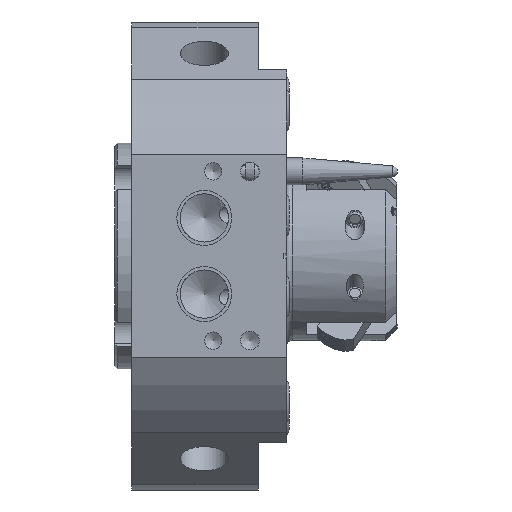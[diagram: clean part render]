
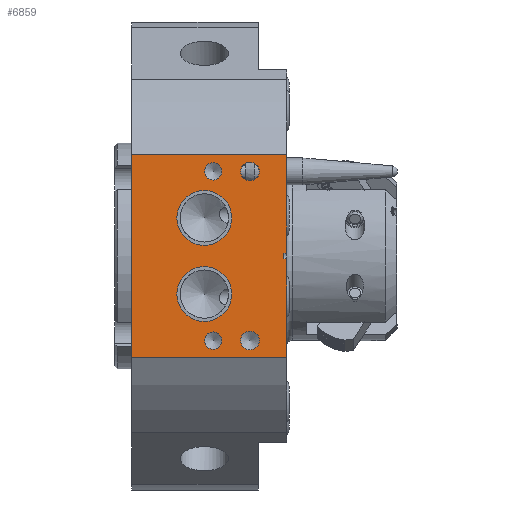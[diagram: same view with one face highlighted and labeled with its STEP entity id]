
A CAD part, left-side view. The second image highlights one B-rep face of the part: STEP entity #6859.
In plain terms, the highlighted planar face has unit normal (-1, 0, 0).
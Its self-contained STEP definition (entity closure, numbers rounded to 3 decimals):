
#1081 = ORIENTED_EDGE ( 'NONE', *, *, #8434, .F. ) ;
#1279 = AXIS2_PLACEMENT_3D ( 'NONE', #12017, #25187, #38333 ) ;
#1310 = DIRECTION ( 'NONE',  ( 0., 0., 1. ) ) ;
#2277 = EDGE_LOOP ( 'NONE', ( #2519 ) ) ;
#2341 = EDGE_CURVE ( 'NONE', #40706, #36477, #35648, .T. ) ;
#2519 = ORIENTED_EDGE ( 'NONE', *, *, #41122, .F. ) ;
#2832 = LINE ( 'NONE', #15983, #40849 ) ;
#2970 = CARTESIAN_POINT ( 'NONE',  ( -38.5, 13., 15. ) ) ;
#3306 = CARTESIAN_POINT ( 'NONE',  ( -38.5, 6.5, 15. ) ) ;
#3478 = EDGE_CURVE ( 'NONE', #14315, #14315, #40271, .T. ) ;
#3518 = DIRECTION ( 'NONE',  ( 0., -1., 0. ) ) ;
#4180 = ORIENTED_EDGE ( 'NONE', *, *, #35152, .F. ) ;
#4837 = VERTEX_POINT ( 'NONE', #17983 ) ;
#5275 = EDGE_CURVE ( 'NONE', #24651, #24651, #35233, .T. ) ;
#5399 = AXIS2_PLACEMENT_3D ( 'NONE', #35073, #5528, #18678 ) ;
#5528 = DIRECTION ( 'NONE',  ( 1., 0., 0. ) ) ;
#5551 = EDGE_CURVE ( 'NONE', #6599, #36477, #25096, .T. ) ;
#5715 = ORIENTED_EDGE ( 'NONE', *, *, #19561, .T. ) ;
#5760 = CIRCLE ( 'NONE', #29856, 4.864 ) ;
#6095 = CARTESIAN_POINT ( 'NONE',  ( -38.5, 27.5, 18. ) ) ;
#6563 = DIRECTION ( 'NONE',  ( 0., 0., 1. ) ) ;
#6599 = VERTEX_POINT ( 'NONE', #11887 ) ;
#6859 = ADVANCED_FACE ( 'NONE', ( #15244, #28403, #41551, #12002, #25173, #38315, #8764 ), #21901, .F. ) ;
#6948 = VERTEX_POINT ( 'NONE', #20098 ) ;
#6967 = AXIS2_PLACEMENT_3D ( 'NONE', #41857, #12307, #25483 ) ;
#7397 = EDGE_CURVE ( 'NONE', #23138, #31960, #19881, .T. ) ;
#7984 = DIRECTION ( 'NONE',  ( 0., 0., 1. ) ) ;
#8077 = CARTESIAN_POINT ( 'NONE',  ( -38.5, 0.5, 0.5 ) ) ;
#8434 = EDGE_CURVE ( 'NONE', #23138, #40706, #24369, .T. ) ;
#8690 = DIRECTION ( 'NONE',  ( 0., 0., 1. ) ) ;
#8764 = FACE_OUTER_BOUND ( 'NONE', #25923, .T. ) ;
#8885 = ORIENTED_EDGE ( 'NONE', *, *, #3478, .F. ) ;
#9131 = VERTEX_POINT ( 'NONE', #22287 ) ;
#10244 = EDGE_CURVE ( 'NONE', #31960, #36650, #22958, .T. ) ;
#10590 = CARTESIAN_POINT ( 'NONE',  ( -38.5, 0., 18. ) ) ;
#11721 = VERTEX_POINT ( 'NONE', #24899 ) ;
#11833 = DIRECTION ( 'NONE',  ( 0., -1., 0. ) ) ;
#11887 = CARTESIAN_POINT ( 'NONE',  ( -38.5, 0., 0.5 ) ) ;
#12002 = FACE_BOUND ( 'NONE', #33297, .T. ) ;
#12017 = CARTESIAN_POINT ( 'NONE',  ( -38.5, 14.6, 6.75 ) ) ;
#12307 = DIRECTION ( 'NONE',  ( -1., 0., 0. ) ) ;
#12878 = DIRECTION ( 'NONE',  ( -1., 0., 0. ) ) ;
#13535 = ORIENTED_EDGE ( 'NONE', *, *, #35894, .F. ) ;
#14279 = CARTESIAN_POINT ( 'NONE',  ( -38.5, 27.5, 18. ) ) ;
#14315 = VERTEX_POINT ( 'NONE', #27465 ) ;
#14460 = EDGE_CURVE ( 'NONE', #37205, #36650, #28224, .T. ) ;
#15244 = FACE_BOUND ( 'NONE', #39331, .T. ) ;
#15299 = AXIS2_PLACEMENT_3D ( 'NONE', #42427, #12878, #26031 ) ;
#15415 = VERTEX_POINT ( 'NONE', #29131 ) ;
#15983 = CARTESIAN_POINT ( 'NONE',  ( -38.5, 0.5, 0.5 ) ) ;
#16123 = DIRECTION ( 'NONE',  ( -1., 0., 0. ) ) ;
#16458 = DIRECTION ( 'NONE',  ( -1., 0., 0. ) ) ;
#16696 = ORIENTED_EDGE ( 'NONE', *, *, #5275, .F. ) ;
#17700 = CARTESIAN_POINT ( 'NONE',  ( -38.5, 14.6, -6.75 ) ) ;
#17983 = CARTESIAN_POINT ( 'NONE',  ( -38.5, 6.5, -13.35 ) ) ;
#18678 = DIRECTION ( 'NONE',  ( 0., 0., -1. ) ) ;
#19253 = DIRECTION ( 'NONE',  ( 0., -1., 0. ) ) ;
#19561 = EDGE_CURVE ( 'NONE', #15415, #6599, #37637, .T. ) ;
#19881 = LINE ( 'NONE', #33052, #33659 ) ;
#20098 = CARTESIAN_POINT ( 'NONE',  ( -38.5, 14.6, 11.614 ) ) ;
#20518 = CARTESIAN_POINT ( 'NONE',  ( -38.5, 27.5, -18. ) ) ;
#21138 = CARTESIAN_POINT ( 'NONE',  ( -38.5, 0., -0.5 ) ) ;
#21216 = DIRECTION ( 'NONE',  ( 0., -1., 0. ) ) ;
#21240 = VECTOR ( 'NONE', #19253, 1000. ) ;
#21674 = AXIS2_PLACEMENT_3D ( 'NONE', #3306, #16458, #29620 ) ;
#21901 = PLANE ( 'NONE',  #5399 ) ;
#22287 = CARTESIAN_POINT ( 'NONE',  ( -38.5, 14.6, -1.886 ) ) ;
#22958 = LINE ( 'NONE', #36118, #39573 ) ;
#23138 = VERTEX_POINT ( 'NONE', #20518 ) ;
#24369 = LINE ( 'NONE', #37540, #34598 ) ;
#24651 = VERTEX_POINT ( 'NONE', #37824 ) ;
#24899 = CARTESIAN_POINT ( 'NONE',  ( -38.5, 13., -13.469 ) ) ;
#25096 = LINE ( 'NONE', #38248, #33034 ) ;
#25173 = FACE_BOUND ( 'NONE', #2277, .T. ) ;
#25187 = DIRECTION ( 'NONE',  ( -1., 0., 0. ) ) ;
#25483 = DIRECTION ( 'NONE',  ( 0., 0., 1. ) ) ;
#25587 = CIRCLE ( 'NONE', #6967, 1.65 ) ;
#25923 = EDGE_LOOP ( 'NONE', ( #26362, #5715, #35202, #30777, #1081, #42570, #30739, #27341 ) ) ;
#26031 = DIRECTION ( 'NONE',  ( 0., 0., 1. ) ) ;
#26362 = ORIENTED_EDGE ( 'NONE', *, *, #39380, .F. ) ;
#27341 = ORIENTED_EDGE ( 'NONE', *, *, #14460, .F. ) ;
#27465 = CARTESIAN_POINT ( 'NONE',  ( -38.5, 6.5, 16.65 ) ) ;
#28224 = LINE ( 'NONE', #41377, #41254 ) ;
#28403 = FACE_BOUND ( 'NONE', #29502, .T. ) ;
#29002 = EDGE_LOOP ( 'NONE', ( #13535 ) ) ;
#29131 = CARTESIAN_POINT ( 'NONE',  ( -38.5, 0.5, 0.5 ) ) ;
#29142 = DIRECTION ( 'NONE',  ( 0., 0., -1. ) ) ;
#29278 = DIRECTION ( 'NONE',  ( 0., 0., 1. ) ) ;
#29502 = EDGE_LOOP ( 'NONE', ( #8885 ) ) ;
#29620 = DIRECTION ( 'NONE',  ( 0., 0., 1. ) ) ;
#29714 = AXIS2_PLACEMENT_3D ( 'NONE', #2970, #16123, #29278 ) ;
#29856 = AXIS2_PLACEMENT_3D ( 'NONE', #17700, #30844, #1310 ) ;
#30739 = ORIENTED_EDGE ( 'NONE', *, *, #10244, .T. ) ;
#30777 = ORIENTED_EDGE ( 'NONE', *, *, #2341, .F. ) ;
#30844 = DIRECTION ( 'NONE',  ( -1., 0., 0. ) ) ;
#31094 = EDGE_LOOP ( 'NONE', ( #39106 ) ) ;
#31131 = CARTESIAN_POINT ( 'NONE',  ( -38.5, 0.5, -0.5 ) ) ;
#31960 = VERTEX_POINT ( 'NONE', #34475 ) ;
#33034 = VECTOR ( 'NONE', #8690, 1000. ) ;
#33052 = CARTESIAN_POINT ( 'NONE',  ( -38.5, 27.5, -18. ) ) ;
#33297 = EDGE_LOOP ( 'NONE', ( #16696 ) ) ;
#33659 = VECTOR ( 'NONE', #3518, 1000. ) ;
#33667 = VECTOR ( 'NONE', #21216, 1000. ) ;
#33885 = CIRCLE ( 'NONE', #15299, 1.531 ) ;
#34475 = CARTESIAN_POINT ( 'NONE',  ( -38.5, 0., -18. ) ) ;
#34598 = VECTOR ( 'NONE', #7984, 1000. ) ;
#35073 = CARTESIAN_POINT ( 'NONE',  ( -38.5, 27.5, 18. ) ) ;
#35152 = EDGE_CURVE ( 'NONE', #4837, #4837, #25587, .T. ) ;
#35202 = ORIENTED_EDGE ( 'NONE', *, *, #5551, .T. ) ;
#35233 = CIRCLE ( 'NONE', #29714, 1.532 ) ;
#35648 = LINE ( 'NONE', #6095, #21240 ) ;
#35894 = EDGE_CURVE ( 'NONE', #11721, #11721, #33885, .T. ) ;
#36118 = CARTESIAN_POINT ( 'NONE',  ( -38.5, 0., 18. ) ) ;
#36477 = VERTEX_POINT ( 'NONE', #10590 ) ;
#36650 = VERTEX_POINT ( 'NONE', #21138 ) ;
#37205 = VERTEX_POINT ( 'NONE', #31131 ) ;
#37540 = CARTESIAN_POINT ( 'NONE',  ( -38.5, 27.5, 18. ) ) ;
#37637 = LINE ( 'NONE', #8077, #33667 ) ;
#37824 = CARTESIAN_POINT ( 'NONE',  ( -38.5, 13., 16.531 ) ) ;
#37936 = EDGE_CURVE ( 'NONE', #9131, #9131, #5760, .T. ) ;
#38248 = CARTESIAN_POINT ( 'NONE',  ( -38.5, 0., 18. ) ) ;
#38315 = FACE_BOUND ( 'NONE', #31094, .T. ) ;
#38333 = DIRECTION ( 'NONE',  ( 0., 0., 1. ) ) ;
#38487 = CIRCLE ( 'NONE', #1279, 4.864 ) ;
#39106 = ORIENTED_EDGE ( 'NONE', *, *, #37936, .F. ) ;
#39331 = EDGE_LOOP ( 'NONE', ( #4180 ) ) ;
#39380 = EDGE_CURVE ( 'NONE', #15415, #37205, #2832, .T. ) ;
#39573 = VECTOR ( 'NONE', #6563, 1000. ) ;
#40271 = CIRCLE ( 'NONE', #21674, 1.65 ) ;
#40706 = VERTEX_POINT ( 'NONE', #14279 ) ;
#40849 = VECTOR ( 'NONE', #29142, 1000. ) ;
#41122 = EDGE_CURVE ( 'NONE', #6948, #6948, #38487, .T. ) ;
#41254 = VECTOR ( 'NONE', #11833, 1000. ) ;
#41377 = CARTESIAN_POINT ( 'NONE',  ( -38.5, 0.5, -0.5 ) ) ;
#41551 = FACE_BOUND ( 'NONE', #29002, .T. ) ;
#41857 = CARTESIAN_POINT ( 'NONE',  ( -38.5, 6.5, -15. ) ) ;
#42427 = CARTESIAN_POINT ( 'NONE',  ( -38.5, 13., -15. ) ) ;
#42570 = ORIENTED_EDGE ( 'NONE', *, *, #7397, .T. ) ;
